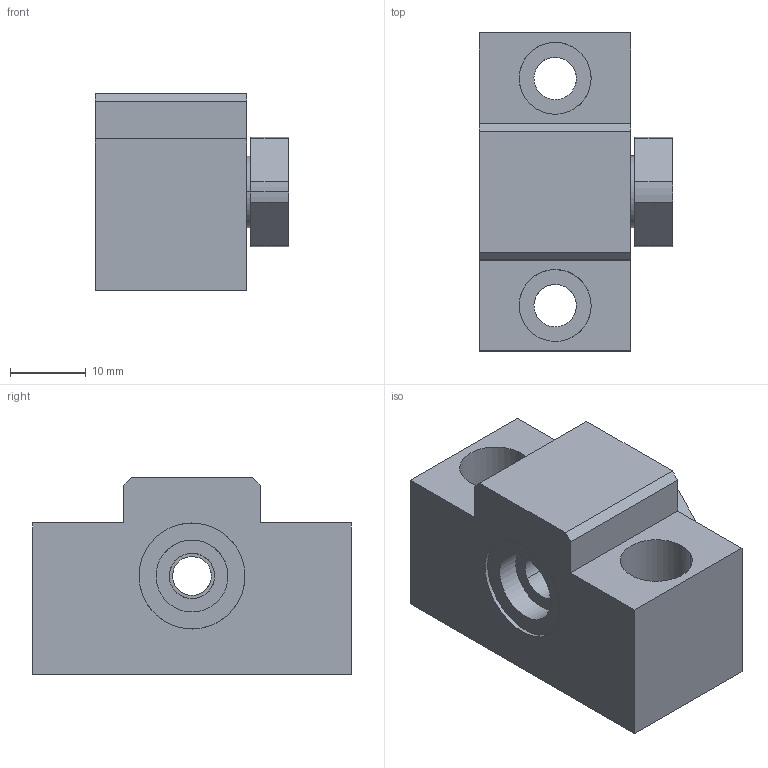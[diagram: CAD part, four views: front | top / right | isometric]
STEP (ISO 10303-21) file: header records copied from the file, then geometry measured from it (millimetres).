
FILE_DESCRIPTION(('CATIA V5 STEP Exchange'),'2;1');
FILE_NAME('D:\서포트 완성도면\EK\EK6P5.stp','2014-03-24T10:10:13+00:00',('none'),('none'),'CATIA Version 5 Release 18 GA (IN-10)','CATIA V5 STEP AP203','none');
FILE_SCHEMA(('CONFIG_CONTROL_DESIGN'));
Length unit declared in the file: millimetre
Products named in the file (1): EK6P5
Assembly tree (3 placements, depth 2):
  EK6P5
    #56
    #1405
    #1656
Bounding box: 25.5 x 42 x 26 mm (x, y, z)
Volume: 16780.3 mm3; surface area: 6742.9 mm2
Topology: 3 solids, 3 shells, 53 faces, 126 edges, 84 vertices
Faces by surface type: cylinder 28, plane 25
Entity records: 2112 total; most frequent: CARTESIAN_POINT 865, ORIENTED_EDGE 252, DIRECTION 189, EDGE_CURVE 126, VERTEX_POINT 84, VECTOR 70, LINE 70, EDGE_LOOP 68
